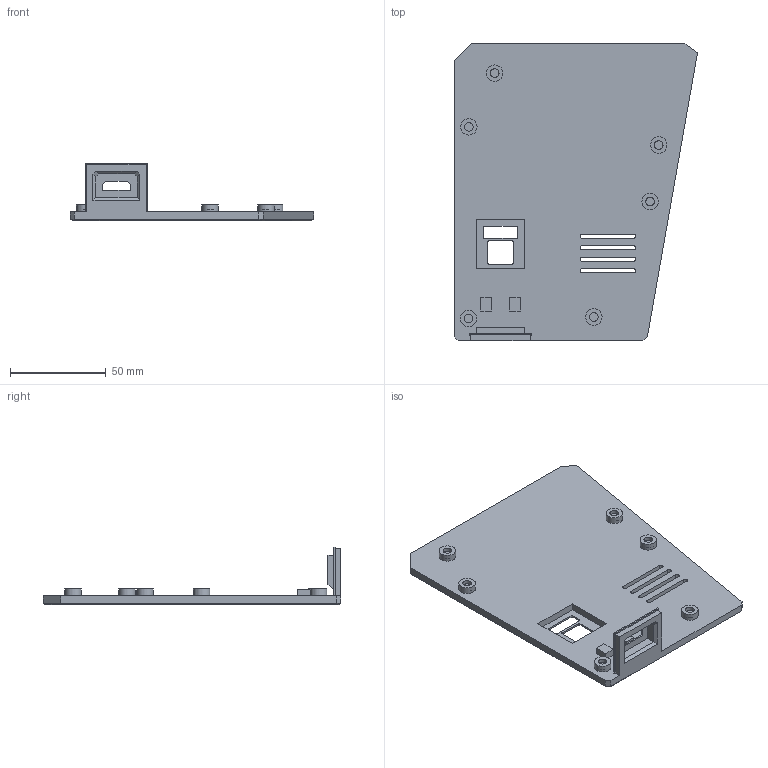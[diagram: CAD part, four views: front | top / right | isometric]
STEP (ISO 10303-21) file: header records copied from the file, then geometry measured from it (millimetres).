
FILE_DESCRIPTION(('Open CASCADE Model'),'2;1');
FILE_NAME('Open CASCADE Shape Model','2026-11-23T17:04:27',('Author'),( 'Open CASCADE'),'Open CASCADE STEP processor 7.9','Open CASCADE 7.9' ,'Unknown');
FILE_SCHEMA(('AUTOMOTIVE_DESIGN { 1 0 10303 214 1 1 1 1 }'));
Length unit declared in the file: millimetre
Products named in the file (1): Open CASCADE STEP translator 7.9 2
Bounding box: 126.75 x 155.1 x 29.98 mm (x, y, z)
Volume: 79190.9 mm3; surface area: 42057.7 mm2
Topology: 1 solids, 1 shells, 622 faces, 1660 edges, 1102 vertices
Faces by surface type: plane 313, extrusion 263, cylinder 34, bspline 12
Full cylindrical faces by diameter (mm): 4.5 x6, 7.44 x6, 8.56 x6
Entity records: 45164 total; most frequent: CARTESIAN_POINT 14109, DIRECTION 4606, VECTOR 3726, LINE 3463, ORIENTED_EDGE 3320, PCURVE 3320, DEFINITIONAL_REPRESENTATION 3320, EDGE_CURVE 1660
